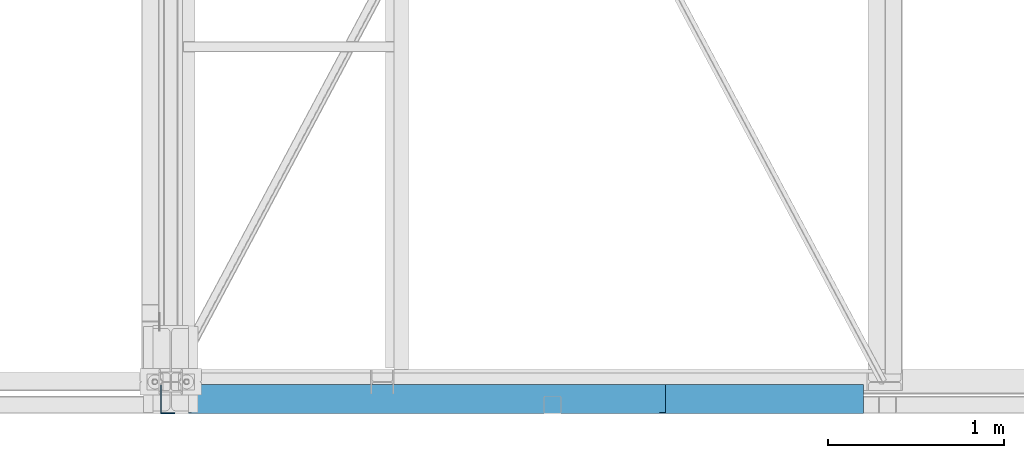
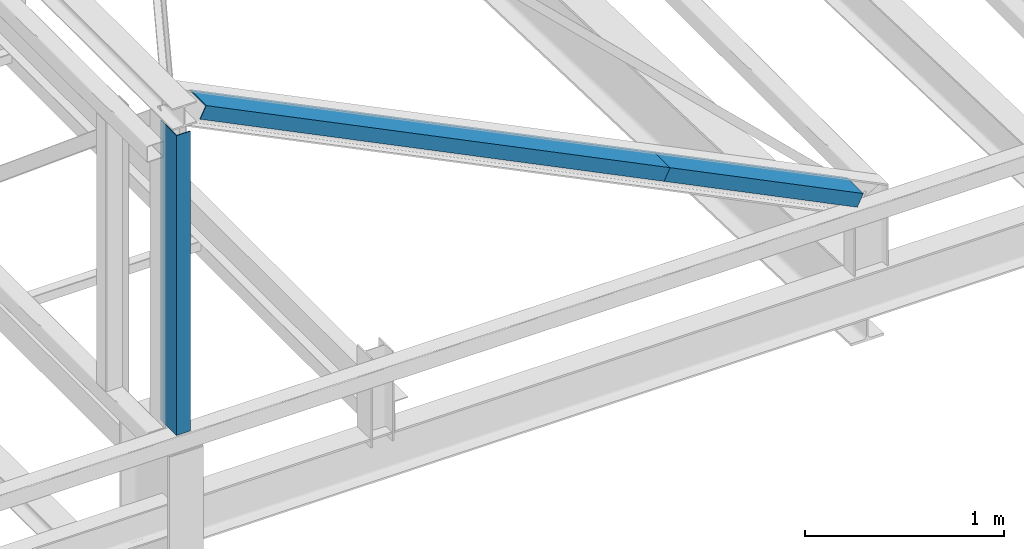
# One storey, part 120 of 123: 3 beams, 3 elements without a shape of their own.
"""IFC2X3 building model written with IfcOpenShell, lengths in millimetres."""

import ifcopenshell
import ifcopenshell.guid

model = None  # the IFC model being written
_history = None  # IfcOwnerHistory: only IFC2X3 demands one
_inside = {}  # id of a spatial element -> (the spatial element, [elements in it])
_under = {}  # id of a project, library or spatial element -> (it, [spatial elements below it])
_declared = {}  # id of a project -> (the project, [libraries it declares])
_typed = {}  # id of a type object -> (the type object, [elements of that type])
_made_of = {}  # id of a material, layer set ... -> (it, [elements and type objects made of it])


def new_model(schema):
    """Start an empty IFC model of exactly this schema.

    Asked for "IFC4X3", IfcOpenShell would pick the latest addendum, in which some entities
    have other attributes; the version numbers below select the first issue.
    IFC2X3 requires an IfcOwnerHistory on every rooted entity: one is made here for all.
    """
    global model, _history
    if schema == "IFC4X3":
        model = ifcopenshell.file(schema_version=(4, 3, 0, 0))
    else:
        model = ifcopenshell.file(schema=schema)
    _inside.clear()
    _under.clear()
    _declared.clear()
    _typed.clear()
    _made_of.clear()
    _history = None
    if model.schema == "IFC2X3":
        org = make("IfcOrganization", Name="unknown")
        user = make(
            "IfcPersonAndOrganization",
            ThePerson=make("IfcPerson", FamilyName="unknown"),
            TheOrganization=org,
        )
        app = make(
            "IfcApplication",
            ApplicationDeveloper=org,
            Version="unknown",
            ApplicationFullName="unknown",
            ApplicationIdentifier="unknown",
        )
        _history = make(
            "IfcOwnerHistory",
            OwningUser=user,
            OwningApplication=app,
            ChangeAction="ADDED",
            CreationDate=0,
        )
    return model


def make(cls, **values):
    """One entity of the class cls with the attributes given. An attribute that is None is left unset."""
    return model.create_entity(
        cls, **{name: value for name, value in values.items() if value is not None}
    )


def rooted(cls, **values):
    """An entity with a GlobalId (a new one), such as an element, a storey or a relation."""
    return make(cls, GlobalId=ifcopenshell.guid.new(), OwnerHistory=_history, **values)


def si_unit(unit_type, name, prefix=None):
    """IfcSIUnit, for example si_unit("LENGTHUNIT", "METRE", prefix="MILLI")."""
    return make("IfcSIUnit", UnitType=unit_type, Prefix=prefix, Name=name)


def assignment(units):
    """IfcUnitAssignment: the units of a project."""
    return None if units is None else make("IfcUnitAssignment", Units=units)


def point(xyz):
    """IfcCartesianPoint."""
    return None if xyz is None else make("IfcCartesianPoint", Coordinates=xyz)


def direction(xyz):
    """IfcDirection."""
    return None if xyz is None else make("IfcDirection", DirectionRatios=xyz)


def frame(location, z_axis=None, x_axis=None):
    """IfcAxis2Placement3D, a coordinate frame: its origin and axes. An axis left out is left unset."""
    return make(
        "IfcAxis2Placement3D",
        Location=point(location),
        Axis=direction(z_axis),
        RefDirection=direction(x_axis),
    )


def origin_with_axes():
    """The frame at (0, 0, 0) with the z axis (0, 0, 1) and the x axis (1, 0, 0) written out."""
    return frame((0.0, 0.0, 0.0), z_axis=(0.0, 0.0, 1.0), x_axis=(1.0, 0.0, 0.0))


def place(relative_to, where):
    """IfcLocalPlacement: puts the frame where relative to a parent placement (None: the world)."""
    return make(
        "IfcLocalPlacement", PlacementRelTo=relative_to, RelativePlacement=where
    )


def context(
    kind, dimensions, precision=None, world=None, true_north=None, identifier=None
):
    """IfcGeometricRepresentationContext, for example the 3D "Model" context."""
    return make(
        "IfcGeometricRepresentationContext",
        ContextIdentifier=identifier,
        ContextType=kind,
        CoordinateSpaceDimension=dimensions,
        Precision=precision,
        WorldCoordinateSystem=world,
        TrueNorth=true_north,
    )


def subcontext(parent, identifier, kind, view, scale=None):
    """IfcGeometricRepresentationSubContext, for example "Body" below "Model"."""
    return make(
        "IfcGeometricRepresentationSubContext",
        ContextIdentifier=identifier,
        ContextType=kind,
        ParentContext=parent,
        TargetScale=scale,
        TargetView=view,
    )


def project(units=None, contexts=None):
    """IfcProject with its units and contexts."""
    return rooted(
        "IfcProject",
        Name="project",
        RepresentationContexts=contexts,
        UnitsInContext=assignment(units),
    )


def spatial(cls, under=None, at=None, **own):
    """A site, building, storey or space (cls), placed at a placement, below another one or the project."""
    s = rooted(cls, ObjectPlacement=at, **own)
    if under is not None:
        _under.setdefault(under.id(), (under, []))[1].append(s)
    return s


def faces_of(points, faces, orient=None, outer=None):
    """IfcFace entities. A face is a list of loops; a loop is a list of indices into points, from 0.

    orient and outer hold one flag for each loop. By default every Orientation is true, the
    first loop of a face is its IfcFaceOuterBound and the others are IfcFaceBound.
    """
    made = []
    for i, loops in enumerate(faces):
        bounds = []
        for j, loop in enumerate(loops):
            is_outer = j == 0 if outer is None else outer[i][j]
            bounds.append(
                make(
                    "IfcFaceOuterBound" if is_outer else "IfcFaceBound",
                    Bound=make("IfcPolyLoop", Polygon=[points[k] for k in loop]),
                    Orientation=True if orient is None else orient[i][j],
                )
            )
        made.append(make("IfcFace", Bounds=bounds))
    return made


def faceted_brep(points, faces, orient=None, outer=None, voids=None):
    """IfcFacetedBrep: a solid bounded by flat faces; with voids (closed shells), ...WithVoids."""
    shared = [point(p) for p in points]
    hull = make("IfcClosedShell", CfsFaces=faces_of(shared, faces, orient, outer))
    if voids is None:
        return make("IfcFacetedBrep", Outer=hull)
    return make(
        "IfcFacetedBrepWithVoids",
        Outer=hull,
        Voids=[
            make(cls, CfsFaces=faces_of(shared, fs, o, b)) for cls, fs, o, b in voids
        ],
    )


def shape(context_of_items, identifier, shape_type, items):
    """IfcShapeRepresentation: the items that make up one representation, for example the "Body"."""
    return make(
        "IfcShapeRepresentation",
        ContextOfItems=context_of_items,
        RepresentationIdentifier=identifier,
        RepresentationType=shape_type,
        Items=items,
    )


def material(Name=None, Category=None):
    """IfcMaterial."""
    return make("IfcMaterial", Name=Name, Category=Category)


def made_of(thing, what):
    """Note that an element or type object is made of a material, layer set ...; save() writes the relation."""
    if what is not None:
        _made_of.setdefault(what.id(), (what, []))[1].append(thing)
    return thing


def type_object(cls, material=None, **own):
    """A type object (cls), such as IfcWallType, which elements share."""
    return made_of(rooted(cls, **own), material)


def element(
    cls,
    number,
    at=None,
    inside=None,
    cuts=None,
    type_object=None,
    material=None,
    context=None,
    identifier="Body",
    shape_type=None,
    held_by="IfcProductDefinitionShape",
    body=None,
    shapes=None,
    **own,
):
    """One element of the class cls, such as IfcWall. Its Tag is "e" and its number.

    at: its placement. inside: the storey or other place that contains it. cuts: it is an
    opening in that element (IfcRelVoidsElement). A single representation is given by context,
    identifier, shape_type and body (its items); several are given by shapes. held_by: the class
    of the entity that holds the representations. save() writes the other relations.
    """
    e = rooted(cls, Tag="e%d" % number, ObjectPlacement=at, **own)
    if body is not None:
        shapes = [shape(context, identifier, shape_type, body)]
    if shapes is not None:
        e.Representation = make(held_by, Representations=shapes)
    if inside is not None:
        _inside.setdefault(inside.id(), (inside, []))[1].append(e)
    if cuts is not None:
        rooted(
            "IfcRelVoidsElement", RelatingBuildingElement=cuts, RelatedOpeningElement=e
        )
    if type_object is not None:
        _typed.setdefault(type_object.id(), (type_object, []))[1].append(e)
    return made_of(e, material)


def aggregate(whole, parts):
    """IfcRelAggregates: a whole, such as a stair, and the parts it consists of."""
    return rooted("IfcRelAggregates", RelatingObject=whole, RelatedObjects=parts)


def save(model, path):
    """Write the relations noted so far, then the file.

    IfcRelAggregates (storeys below a building ...), IfcRelContainedInSpatialStructure (elements
    in a storey), IfcRelDefinesByType, IfcRelAssociatesMaterial and IfcRelDeclares: one each for
    every whole, place, type object, material and project.
    """
    for whole, parts in _under.values():
        aggregate(whole, parts)
    for where, things in _inside.values():
        rooted(
            "IfcRelContainedInSpatialStructure",
            RelatedElements=things,
            RelatingStructure=where,
        )
    for kind, things in _typed.values():
        rooted("IfcRelDefinesByType", RelatedObjects=things, RelatingType=kind)
    for what, things in _made_of.values():
        rooted("IfcRelAssociatesMaterial", RelatedObjects=things, RelatingMaterial=what)
    for by, libraries in _declared.values():
        rooted("IfcRelDeclares", RelatingContext=by, RelatedDefinitions=libraries)
    model.write(path)


model = new_model("IFC2X3")

# Units and contexts
model_context = context("Model", 3, precision=1e-05, world=origin_with_axes())
body_context = subcontext(model_context, "Body", "Model", "MODEL_VIEW")
ifc_project = project(units=[si_unit("LENGTHUNIT", "METRE", prefix="MILLI"), si_unit("AREAUNIT", "SQUARE_METRE"), si_unit("VOLUMEUNIT", "CUBIC_METRE"), si_unit("MASSUNIT", "GRAM", prefix="KILO"), si_unit("TIMEUNIT", "SECOND"), si_unit("PLANEANGLEUNIT", "RADIAN"), si_unit("SOLIDANGLEUNIT", "STERADIAN"), si_unit("THERMODYNAMICTEMPERATUREUNIT", "DEGREE_CELSIUS"), si_unit("LUMINOUSINTENSITYUNIT", "LUMEN")], contexts=[model_context])

# Site, building, storey
site_placement = place(None, origin_with_axes())
site = spatial("IfcSite", under=ifc_project, at=site_placement, Name="Undefined", CompositionType="ELEMENT")
building_placement = place(site_placement, origin_with_axes())
building = spatial("IfcBuilding", under=site, at=building_placement, Name="Undefined", CompositionType="ELEMENT")
storey_placement = place(building_placement, origin_with_axes())
storey = spatial("IfcBuildingStorey", under=building, at=storey_placement, Name="Undefined", CompositionType="ELEMENT", Elevation=0.0)

# Assembly, beam
assembly_1_placement = place(storey_placement, origin_with_axes())
assembly_1 = element("IfcElementAssembly", 1, at=assembly_1_placement, inside=storey, Name="Steel Assembly", AssemblyPlace="NOTDEFINED", PredefinedType="RIGID_FRAME")
ifc_material = material(Name="STEEL/S235-E24")
beam_type_1 = type_object("IfcBeamType", Name="PL5*1250", PredefinedType="NOTDEFINED")
beam_1_placement = place(assembly_1_placement, frame((37612.6418414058, -177.500008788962, 8853.24933047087), z_axis=(0.897398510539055, -1.49999999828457e-08, -0.441220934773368), x_axis=(0.441220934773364, -7.0000000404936e-09, 0.897398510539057)))
beam_1 = element("IfcBeam", 2, at=beam_1_placement, type_object=beam_type_1, material=ifc_material, Name="FEUILLURE", ObjectType="PL5*1250", context=body_context, shape_type="Brep", body=[
    faceted_brep([(2.60115484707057e-09, -2.49999999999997, -624.999999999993), (-6.25732354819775e-10, -2.49999999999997, 625.0), (-2.5902409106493e-09, 2.50000000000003, 625.0), (6.33008312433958e-10, 2.50000000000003, -624.999999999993), (80.0000301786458, 2.50000003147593, 625.000000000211), (80.0000301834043, 2.50000003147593, -624.999999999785), (75.000030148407, -2.4999999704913, -624.9999999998), (75.0000301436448, -2.4999999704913, 625.000000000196), (80.0000290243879, -162.500000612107, 625.000000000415), (80.0000290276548, -162.500000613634, -624.999999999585), (75.0000290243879, -162.500000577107, 625.000000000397), (75.0000290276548, -162.500000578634, -624.999999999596)], [[[0, 1, 2, 3]], [[3, 2, 4, 5]], [[1, 0, 6, 7]], [[5, 4, 8, 9]], [[4, 2, 1, 7, 10, 8]], [[7, 6, 11, 10]], [[6, 0, 3, 5, 9, 11]], [[10, 11, 9, 8]]]),
])
aggregate(assembly_1, [beam_1])

assembly_2_placement = place(storey_placement, origin_with_axes())
assembly_2 = element("IfcElementAssembly", 3, at=assembly_2_placement, inside=storey, Name="Steel Assembly", AssemblyPlace="NOTDEFINED", PredefinedType="RIGID_FRAME")
beam_type_2 = type_object("IfcBeamType", Name="PL5*3000", PredefinedType="NOTDEFINED")
beam_2_placement = place(assembly_2_placement, frame((35705.6700046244, -177.500021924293, 9790.84381788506), z_axis=(0.897398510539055, -1.49999999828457e-08, -0.441220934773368), x_axis=(0.441220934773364, -7.0000000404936e-09, 0.897398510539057)))
beam_2 = element("IfcBeam", 4, at=beam_2_placement, type_object=beam_type_2, material=ifc_material, Name="FEUILLURE", ObjectType="PL5*3000", context=body_context, shape_type="Brep", body=[
    faceted_brep([(1.43700162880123e-09, -2.5, -1500.0), (6.47560227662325e-10, -2.49999999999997, 1500.0), (-1.43700162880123e-09, 2.50000000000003, 1500.0), (-6.43922248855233e-10, 2.5, -1500.0), (80.0000297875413, 2.50000003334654, 1500.00000000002), (80.0000297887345, 2.50000003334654, -1499.99999999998), (75.0000297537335, -2.4999999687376, -1499.99999999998), (75.0000297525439, -2.4999999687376, 1500.00000000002), (80.0000289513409, -162.500000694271, 1500.00000000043), (80.0000289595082, -162.500000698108, -1499.99999999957), (75.0000289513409, -162.500000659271, 1500.00000000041), (75.0000289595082, -162.500000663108, -1499.99999999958)], [[[0, 1, 2, 3]], [[3, 2, 4, 5]], [[1, 0, 6, 7]], [[5, 4, 8, 9]], [[4, 2, 1, 7, 10, 8]], [[7, 6, 11, 10]], [[6, 0, 3, 5, 9, 11]], [[10, 11, 9, 8]]]),
])
aggregate(assembly_2, [beam_2])

assembly_3_placement = place(storey_placement, origin_with_axes())
assembly_3 = element("IfcElementAssembly", 5, at=assembly_3_placement, inside=storey, Name="Steel Assembly", AssemblyPlace="NOTDEFINED", PredefinedType="RIGID_FRAME")
beam_type_3 = type_object("IfcBeamType", Name="PL5*1840", PredefinedType="NOTDEFINED")
beam_3_placement = place(assembly_3_placement, frame((34302.0000304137, -177.499999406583, 9480.00000000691), z_axis=(0.0, 0.0, 1.0), x_axis=(-1.0, 0.0, 0.0)))
beam_3 = element("IfcBeam", 6, at=beam_3_placement, type_object=beam_type_3, material=ifc_material, Name="FEUILLURE", ObjectType="PL5*1840", context=body_context, shape_type="Brep", body=[
    faceted_brep([(1.04773789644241e-09, -2.5, -920.0), (1.04773789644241e-09, -2.5, 920.0), (-1.04773789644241e-09, 2.5, 920.0), (-1.04773789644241e-09, 2.5, -920.0), (80.0000304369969, 2.50000003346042, 920.0), (80.0000304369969, 2.50000003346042, -920.0), (75.0000304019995, -2.49999996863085, -920.0), (75.0000304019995, -2.49999996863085, 920.0), (80.0000293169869, -157.500000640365, 920.0), (80.0000293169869, -157.500000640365, -920.0), (75.0000293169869, -157.500000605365, 920.0), (75.0000293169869, -157.500000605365, -920.0)], [[[0, 1, 2, 3]], [[3, 2, 4, 5]], [[1, 0, 6, 7]], [[5, 4, 8, 9]], [[4, 2, 1, 7, 10, 8]], [[7, 6, 11, 10]], [[6, 0, 3, 5, 9, 11]], [[10, 11, 9, 8]]]),
])
aggregate(assembly_3, [beam_3])

save(model, "model.ifc")
